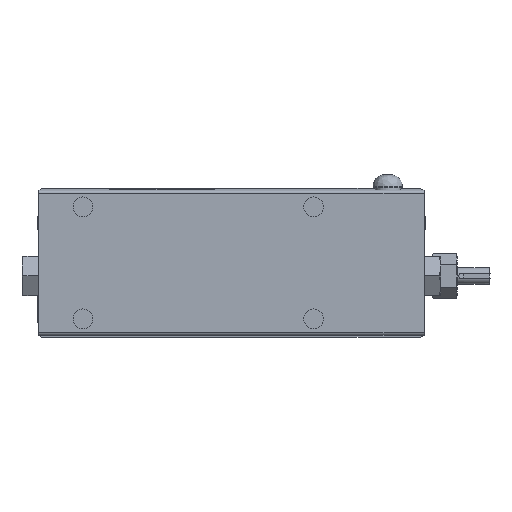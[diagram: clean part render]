
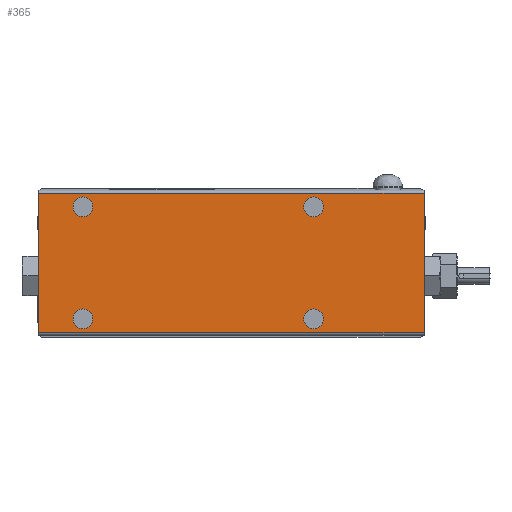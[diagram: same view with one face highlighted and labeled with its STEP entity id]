
A CAD part, front view. The second image highlights one B-rep face of the part: STEP entity #365.
In plain terms, the highlighted planar face has unit normal (0, -1, 0).
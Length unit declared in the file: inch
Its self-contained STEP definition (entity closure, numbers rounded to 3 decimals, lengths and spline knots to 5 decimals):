
#85=DIRECTION('',(0.,0.,1.));
#86=VECTOR('',#85,5.29);
#87=CARTESIAN_POINT('',(7.3125,0.,-2.645));
#88=LINE('',#87,#86);
#89=DIRECTION('',(1.,0.,0.));
#90=VECTOR('',#89,14.625);
#91=CARTESIAN_POINT('',(-7.3125,0.,2.645));
#92=LINE('',#91,#90);
#93=DIRECTION('',(1.,0.,0.));
#94=VECTOR('',#93,14.625);
#95=CARTESIAN_POINT('',(-7.3125,0.,-2.645));
#96=LINE('',#95,#94);
#114=DIRECTION('',(0.,0.,1.));
#115=VECTOR('',#114,5.29);
#116=CARTESIAN_POINT('',(-7.3125,0.,-2.645));
#117=LINE('',#116,#115);
#210=CARTESIAN_POINT('',(7.3125,0.,2.645));
#212=VERTEX_POINT('',#210);
#213=CARTESIAN_POINT('',(-7.3125,0.,2.645));
#214=VERTEX_POINT('',#213);
#217=CARTESIAN_POINT('',(7.3125,0.,-2.645));
#219=VERTEX_POINT('',#217);
#223=CARTESIAN_POINT('',(-7.3125,0.,-2.645));
#224=VERTEX_POINT('',#223);
#352=CARTESIAN_POINT('',(7.3125,0.,-2.75));
#353=DIRECTION('',(0.,-1.,0.));
#354=DIRECTION('',(0.,0.,1.));
#355=AXIS2_PLACEMENT_3D('',#352,#353,#354);
#356=PLANE('',#355);
#357=ORIENTED_EDGE('',*,*,#343,.T.);
#358=ORIENTED_EDGE('',*,*,#332,.F.);
#360=ORIENTED_EDGE('',*,*,#359,.F.);
#362=ORIENTED_EDGE('',*,*,#361,.T.);
#363=EDGE_LOOP('',(#357,#358,#360,#362));
#364=FACE_OUTER_BOUND('',#363,.F.);
#365=ADVANCED_FACE('',(#364),#356,.T.);
#332=EDGE_CURVE('',#219,#212,#88,.T.);
#343=EDGE_CURVE('',#214,#212,#92,.T.);
#359=EDGE_CURVE('',#224,#219,#96,.T.);
#361=EDGE_CURVE('',#224,#214,#117,.T.);
